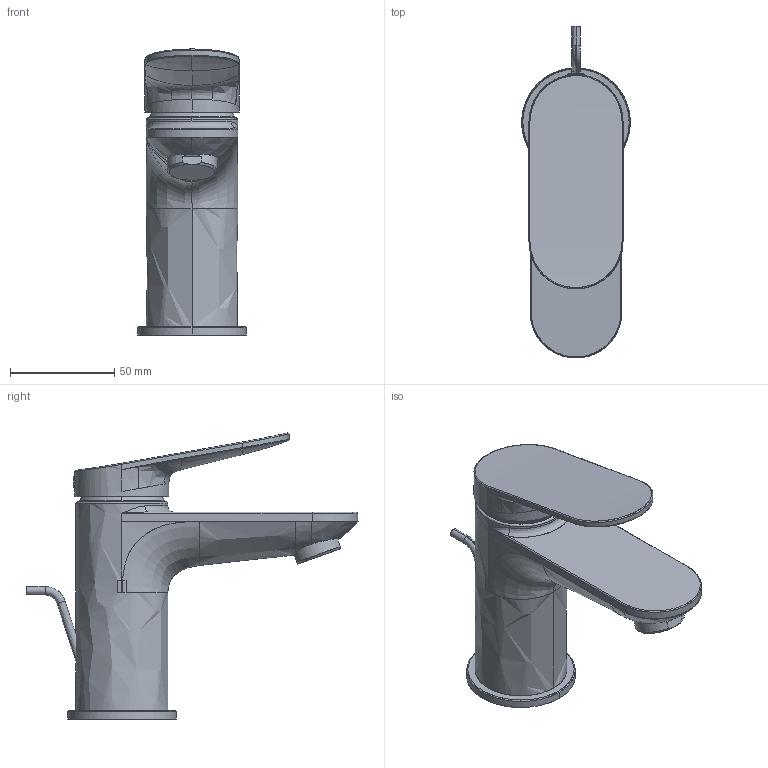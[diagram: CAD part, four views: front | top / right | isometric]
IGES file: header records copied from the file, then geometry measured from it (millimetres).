
Global section: file name: d:\users\matthias.isele\Desktop\Planungsdaten_erstellen\Armaturen\Wave\WA1010001010_WA1010001004_WA1010001034_WA1010001046_WA1010001070_WA1011001010_WA1012001010\3D\WA1010001010_WA1010001004_WA1010001034_WA1010001046_WA1010001070_WA1011001010_WA1012001010.igs; native system: Rhinoceros ( Sep 13 2016 ); preprocessor: Trout Lake IGES 012 Sep 13 2016; date: 230105.081652; units: millimetre
Bounding box: 52 x 158.9 x 136.91 mm (x, y, z)
Surface area: 44159.6 mm2 (no closed solid volume)
Topology: 0 solids, 0 shells, 187 faces, 1374 edges, 1369 vertices
Faces by surface type: bspline 187
